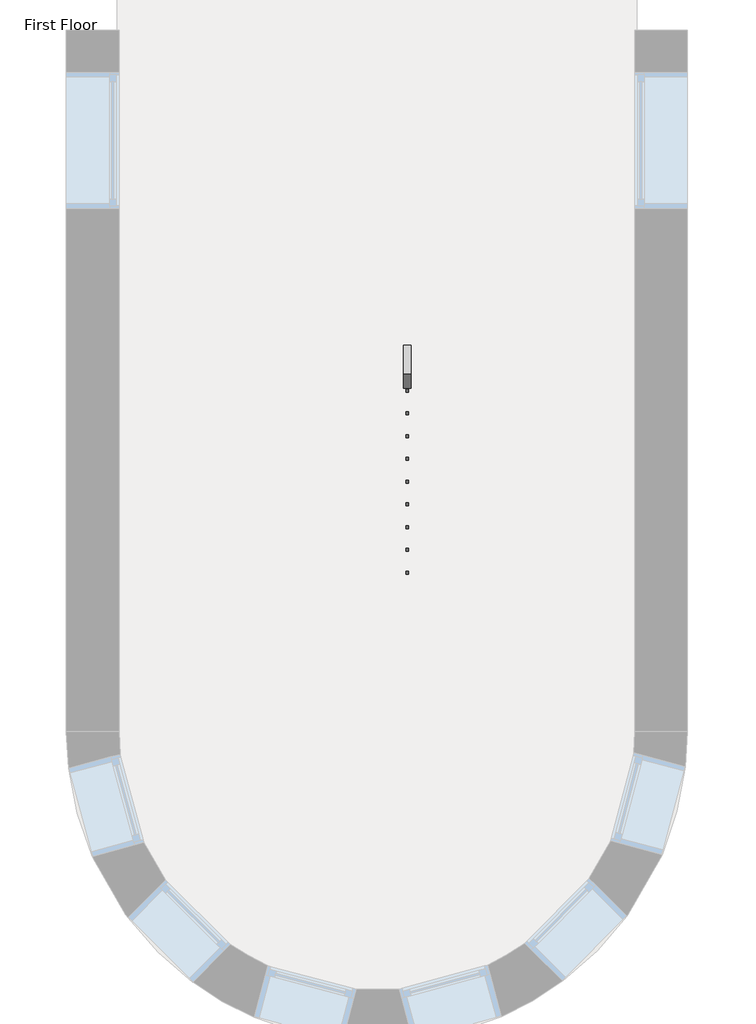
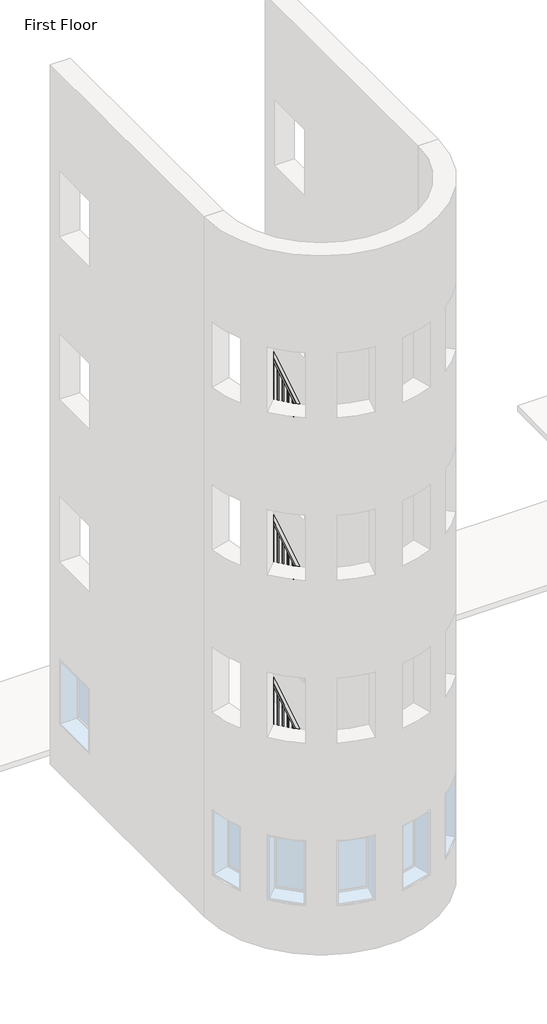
# One storey, part 18 of 21: 1 railing.
"""IFC4 building model written with IfcOpenShell, lengths in millimetres."""

from ifc_helpers import new_model, si_unit, frame, origin, place, context, project, spatial, polyline, outline, extrude, element, save

model = new_model("IFC4")

# Units and contexts
model_context = context("Model", 3, world=origin())
ifc_project = project(units=[si_unit("LENGTHUNIT", "METRE", prefix="MILLI")], contexts=[model_context])

# Site, building, storey
site = spatial("IfcSite", under=ifc_project)
building = spatial("IfcBuilding", under=site)
storey = spatial("IfcBuildingStorey", under=building, Name="First Floor", Elevation=0.0)

# Railing
placement = place(None, origin())
element("IfcRailing", 1, ObjectType="Handrail - Rectangular", at=placement, inside=storey, context=model_context, shape_type="SweptSolid", body=[
    extrude(outline(polyline([(-30327.1183133, 7179.7333333), (-30327.1183133, 7120.3318731), (-32511.5183133, 8444.2106609), (-32511.5183133, 8503.6121212), (-30327.1183133, 7179.7333333)])), frame((-14884.3714563, 0.0, 0.0), z_axis=(1.0, 0.0, 0.0), x_axis=(0.0, 1.0, 0.0)), (0.0, 0.0, 1.0), 50.8),
    extrude(outline(polyline([(-14833.5714563, -32511.5183133), (-14833.5714563, -32562.3183133), (-15225.6839563, -32562.3183133), (-15225.6839563, -32511.5183133), (-14833.5714563, -32511.5183133)])), frame((0.0, 0.0, 8483.6), z_axis=(0.0, 0.0, 1.0), x_axis=(1.0, 0.0, 0.0)), (0.0, 0.0, 1.0), 50.8),
    extrude(outline(polyline([(-32562.3183133, 8644.3318731), (-32562.3183133, 8703.7333333), (-30327.1183133, 10058.4), (-30327.1183133, 9998.9985397), (-32562.3183133, 8644.3318731)])), frame((-15276.4839563, 0.0, 0.0), z_axis=(1.0, 0.0, 0.0), x_axis=(0.0, 1.0, 0.0)), (0.0, 0.0, 1.0), 50.8),
    extrude(outline(polyline([(-30412.8433133, 9947.0439943), (-30393.7933133, 9958.5894488), (-30393.7933133, 9146.3720877), (-30412.8433133, 9134.8266332), (-30412.8433133, 9947.0439943)])), frame((-15260.6089563, 0.0, 0.0), z_axis=(1.0, 0.0, 0.0), x_axis=(0.0, 1.0, 0.0)), (0.0, 0.0, 1.0), 19.05),
    extrude(outline(polyline([(-30565.2433133, 9854.6803579), (-30546.1933133, 9866.2258125), (-30546.1933133, 9054.0084513), (-30565.2433133, 9042.4629968), (-30565.2433133, 9854.6803579)])), frame((-15260.6089563, 0.0, 0.0), z_axis=(1.0, 0.0, 0.0), x_axis=(0.0, 1.0, 0.0)), (0.0, 0.0, 1.0), 19.05),
    extrude(outline(polyline([(-30717.6433133, 9762.3167215), (-30698.5933133, 9773.8621761), (-30698.5933133, 8961.644815), (-30717.6433133, 8950.0993604), (-30717.6433133, 9762.3167215)])), frame((-15260.6089563, 0.0, 0.0), z_axis=(1.0, 0.0, 0.0), x_axis=(0.0, 1.0, 0.0)), (0.0, 0.0, 1.0), 19.05),
    extrude(outline(polyline([(-30870.0433133, 9669.9530852), (-30850.9933133, 9681.4985397), (-30850.9933133, 8869.2811786), (-30870.0433133, 8857.7357241), (-30870.0433133, 9669.9530852)])), frame((-15260.6089563, 0.0, 0.0), z_axis=(1.0, 0.0, 0.0), x_axis=(0.0, 1.0, 0.0)), (0.0, 0.0, 1.0), 19.05),
    extrude(outline(polyline([(-31022.4433133, 9577.5894488), (-31003.3933133, 9589.1349034), (-31003.3933133, 8776.9175422), (-31022.4433133, 8765.3720877), (-31022.4433133, 9577.5894488)])), frame((-15260.6089563, 0.0, 0.0), z_axis=(1.0, 0.0, 0.0), x_axis=(0.0, 1.0, 0.0)), (0.0, 0.0, 1.0), 19.05),
    extrude(outline(polyline([(-31174.8433133, 9485.2258125), (-31155.7933133, 9496.771267), (-31155.7933133, 8684.5539059), (-31174.8433133, 8673.0084513), (-31174.8433133, 9485.2258125)])), frame((-15260.6089563, 0.0, 0.0), z_axis=(1.0, 0.0, 0.0), x_axis=(0.0, 1.0, 0.0)), (0.0, 0.0, 1.0), 19.05),
    extrude(outline(polyline([(-31327.2433133, 9392.8621761), (-31308.1933133, 9404.4076306), (-31308.1933133, 8592.1902695), (-31327.2433133, 8580.644815), (-31327.2433133, 9392.8621761)])), frame((-15260.6089563, 0.0, 0.0), z_axis=(1.0, 0.0, 0.0), x_axis=(0.0, 1.0, 0.0)), (0.0, 0.0, 1.0), 19.05),
    extrude(outline(polyline([(-31479.6433133, 9300.4985397), (-31460.5933133, 9312.0439943), (-31460.5933133, 8499.8266332), (-31479.6433133, 8488.2811786), (-31479.6433133, 9300.4985397)])), frame((-15260.6089563, 0.0, 0.0), z_axis=(1.0, 0.0, 0.0), x_axis=(0.0, 1.0, 0.0)), (0.0, 0.0, 1.0), 19.05),
    extrude(outline(polyline([(-31632.0433133, 9208.1349034), (-31612.9933133, 9219.6803579), (-31612.9933133, 8407.4629968), (-31632.0433133, 8395.9175422), (-31632.0433133, 9208.1349034)])), frame((-15260.6089563, 0.0, 0.0), z_axis=(1.0, 0.0, 0.0), x_axis=(0.0, 1.0, 0.0)), (0.0, 0.0, 1.0), 19.05),
    extrude(outline(polyline([(-31784.4433133, 9115.771267), (-31765.3933133, 9127.3167215), (-31765.3933133, 8315.0993604), (-31784.4433133, 8303.5539059), (-31784.4433133, 9115.771267)])), frame((-15260.6089563, 0.0, 0.0), z_axis=(1.0, 0.0, 0.0), x_axis=(0.0, 1.0, 0.0)), (0.0, 0.0, 1.0), 19.05),
    extrude(outline(polyline([(-31936.8433133, 9023.4076306), (-31917.7933133, 9034.9530852), (-31917.7933133, 8222.7357241), (-31936.8433133, 8211.1902695), (-31936.8433133, 9023.4076306)])), frame((-15260.6089563, 0.0, 0.0), z_axis=(1.0, 0.0, 0.0), x_axis=(0.0, 1.0, 0.0)), (0.0, 0.0, 1.0), 19.05),
    extrude(outline(polyline([(-32089.2433133, 8931.0439943), (-32070.1933133, 8942.5894488), (-32070.1933133, 8130.3720877), (-32089.2433133, 8118.8266332), (-32089.2433133, 8931.0439943)])), frame((-15260.6089563, 0.0, 0.0), z_axis=(1.0, 0.0, 0.0), x_axis=(0.0, 1.0, 0.0)), (0.0, 0.0, 1.0), 19.05),
    extrude(outline(polyline([(-32241.6433133, 8838.6803579), (-32222.5933133, 8850.2258125), (-32222.5933133, 8038.0084513), (-32241.6433133, 8026.4629968), (-32241.6433133, 8838.6803579)])), frame((-15260.6089563, 0.0, 0.0), z_axis=(1.0, 0.0, 0.0), x_axis=(0.0, 1.0, 0.0)), (0.0, 0.0, 1.0), 19.05),
    extrude(outline(polyline([(-32394.0433133, 8746.3167215), (-32374.9933133, 8757.8621761), (-32374.9933133, 7945.644815), (-32394.0433133, 7934.0993604), (-32394.0433133, 8746.3167215)])), frame((-15260.6089563, 0.0, 0.0), z_axis=(1.0, 0.0, 0.0), x_axis=(0.0, 1.0, 0.0)), (0.0, 0.0, 1.0), 19.05),
    extrude(outline(polyline([(-15154.2464563, -32527.3933133), (-15154.2464563, -32546.4433133), (-15173.2964563, -32546.4433133), (-15173.2964563, -32527.3933133), (-15154.2464563, -32527.3933133)])), frame((0.0, 0.0, 7696.2), z_axis=(0.0, 0.0, 1.0), x_axis=(1.0, 0.0, 0.0)), (0.0, 0.0, 1.0), 787.4),
    extrude(outline(polyline([(-15001.8464563, -32527.3933133), (-15001.8464563, -32546.4433133), (-15020.8964563, -32546.4433133), (-15020.8964563, -32527.3933133), (-15001.8464563, -32527.3933133)])), frame((0.0, 0.0, 7696.2), z_axis=(0.0, 0.0, 1.0), x_axis=(1.0, 0.0, 0.0)), (0.0, 0.0, 1.0), 787.4),
    extrude(outline(polyline([(-32470.2433133, 8419.1955094), (-32451.1933133, 8407.6500549), (-32451.1933133, 7595.4326938), (-32470.2433133, 7606.9781483), (-32470.2433133, 8419.1955094)])), frame((-14868.4964563, 0.0, 0.0), z_axis=(1.0, 0.0, 0.0), x_axis=(0.0, 1.0, 0.0)), (0.0, 0.0, 1.0), 19.05),
    extrude(outline(polyline([(-32317.8433133, 8326.8318731), (-32298.7933133, 8315.2864185), (-32298.7933133, 7503.0690574), (-32317.8433133, 7514.6145119), (-32317.8433133, 8326.8318731)])), frame((-14868.4964563, 0.0, 0.0), z_axis=(1.0, 0.0, 0.0), x_axis=(0.0, 1.0, 0.0)), (0.0, 0.0, 1.0), 19.05),
    extrude(outline(polyline([(-32165.4433133, 8234.4682367), (-32146.3933133, 8222.9227822), (-32146.3933133, 7410.705421), (-32165.4433133, 7422.2508756), (-32165.4433133, 8234.4682367)])), frame((-14868.4964563, 0.0, 0.0), z_axis=(1.0, 0.0, 0.0), x_axis=(0.0, 1.0, 0.0)), (0.0, 0.0, 1.0), 19.05),
    extrude(outline(polyline([(-32013.0433133, 8142.1046003), (-31993.9933133, 8130.5591458), (-31993.9933133, 7318.3417847), (-32013.0433133, 7329.8872392), (-32013.0433133, 8142.1046003)])), frame((-14868.4964563, 0.0, 0.0), z_axis=(1.0, 0.0, 0.0), x_axis=(0.0, 1.0, 0.0)), (0.0, 0.0, 1.0), 19.05),
    extrude(outline(polyline([(-31860.6433133, 8049.740964), (-31841.5933133, 8038.1955094), (-31841.5933133, 7225.9781483), (-31860.6433133, 7237.5236029), (-31860.6433133, 8049.740964)])), frame((-14868.4964563, 0.0, 0.0), z_axis=(1.0, 0.0, 0.0), x_axis=(0.0, 1.0, 0.0)), (0.0, 0.0, 1.0), 19.05),
    extrude(outline(polyline([(-31708.2433133, 7957.3773276), (-31689.1933133, 7945.8318731), (-31689.1933133, 7133.6145119), (-31708.2433133, 7145.1599665), (-31708.2433133, 7957.3773276)])), frame((-14868.4964563, 0.0, 0.0), z_axis=(1.0, 0.0, 0.0), x_axis=(0.0, 1.0, 0.0)), (0.0, 0.0, 1.0), 19.05),
    extrude(outline(polyline([(-31555.8433133, 7865.0136912), (-31536.7933133, 7853.4682367), (-31536.7933133, 7041.2508756), (-31555.8433133, 7052.7963301), (-31555.8433133, 7865.0136912)])), frame((-14868.4964563, 0.0, 0.0), z_axis=(1.0, 0.0, 0.0), x_axis=(0.0, 1.0, 0.0)), (0.0, 0.0, 1.0), 19.05),
    extrude(outline(polyline([(-31403.4433133, 7772.6500549), (-31384.3933133, 7761.1046003), (-31384.3933133, 6948.8872392), (-31403.4433133, 6960.4326938), (-31403.4433133, 7772.6500549)])), frame((-14868.4964563, 0.0, 0.0), z_axis=(1.0, 0.0, 0.0), x_axis=(0.0, 1.0, 0.0)), (0.0, 0.0, 1.0), 19.05),
    extrude(outline(polyline([(-31251.0433133, 7680.2864185), (-31231.9933133, 7668.740964), (-31231.9933133, 6856.5236029), (-31251.0433133, 6868.0690574), (-31251.0433133, 7680.2864185)])), frame((-14868.4964563, 0.0, 0.0), z_axis=(1.0, 0.0, 0.0), x_axis=(0.0, 1.0, 0.0)), (0.0, 0.0, 1.0), 19.05),
    extrude(outline(polyline([(-31098.6433133, 7587.9227822), (-31079.5933133, 7576.3773276), (-31079.5933133, 6764.1599665), (-31098.6433133, 6775.705421), (-31098.6433133, 7587.9227822)])), frame((-14868.4964563, 0.0, 0.0), z_axis=(1.0, 0.0, 0.0), x_axis=(0.0, 1.0, 0.0)), (0.0, 0.0, 1.0), 19.05),
    extrude(outline(polyline([(-30946.2433133, 7495.5591458), (-30927.1933133, 7484.0136912), (-30927.1933133, 6671.7963301), (-30946.2433133, 6683.3417847), (-30946.2433133, 7495.5591458)])), frame((-14868.4964563, 0.0, 0.0), z_axis=(1.0, 0.0, 0.0), x_axis=(0.0, 1.0, 0.0)), (0.0, 0.0, 1.0), 19.05),
    extrude(outline(polyline([(-30793.8433133, 7403.1955094), (-30774.7933133, 7391.6500549), (-30774.7933133, 6579.4326938), (-30793.8433133, 6590.9781483), (-30793.8433133, 7403.1955094)])), frame((-14868.4964563, 0.0, 0.0), z_axis=(1.0, 0.0, 0.0), x_axis=(0.0, 1.0, 0.0)), (0.0, 0.0, 1.0), 19.05),
    extrude(outline(polyline([(-30641.4433133, 7310.8318731), (-30622.3933133, 7299.2864185), (-30622.3933133, 6487.0690574), (-30641.4433133, 6498.6145119), (-30641.4433133, 7310.8318731)])), frame((-14868.4964563, 0.0, 0.0), z_axis=(1.0, 0.0, 0.0), x_axis=(0.0, 1.0, 0.0)), (0.0, 0.0, 1.0), 19.05),
    extrude(outline(polyline([(-30489.0433133, 7218.4682367), (-30469.9933133, 7206.9227822), (-30469.9933133, 6394.705421), (-30489.0433133, 6406.2508756), (-30489.0433133, 7218.4682367)])), frame((-14868.4964563, 0.0, 0.0), z_axis=(1.0, 0.0, 0.0), x_axis=(0.0, 1.0, 0.0)), (0.0, 0.0, 1.0), 19.05),
    extrude(outline(polyline([(-32546.4433133, 8653.9530852), (-32527.3933133, 8665.4985397), (-32527.3933133, 7853.2811786), (-32546.4433133, 7841.7357241), (-32546.4433133, 8653.9530852)])), frame((-15260.6089563, 0.0, 0.0), z_axis=(1.0, 0.0, 0.0), x_axis=(0.0, 1.0, 0.0)), (0.0, 0.0, 1.0), 19.05),
    extrude(outline(polyline([(-14849.4464563, -32527.3933133), (-14849.4464563, -32546.4433133), (-14868.4964563, -32546.4433133), (-14868.4964563, -32527.3933133), (-14849.4464563, -32527.3933133)])), frame((0.0, 0.0, 7696.2), z_axis=(0.0, 0.0, 1.0), x_axis=(1.0, 0.0, 0.0)), (0.0, 0.0, 1.0), 787.4),
    extrude(outline(polyline([(-30346.1683133, 9987.4530852), (-30327.1183133, 9998.9985397), (-30327.1183133, 9186.7811786), (-30346.1683133, 9175.2357241), (-30346.1683133, 9987.4530852)])), frame((-15260.6089563, 0.0, 0.0), z_axis=(1.0, 0.0, 0.0), x_axis=(0.0, 1.0, 0.0)), (0.0, 0.0, 1.0), 19.05),
    extrude(outline(polyline([(-30346.1683133, 7131.8773276), (-30327.1183133, 7120.3318731), (-30327.1183133, 6308.1145119), (-30346.1683133, 6319.6599665), (-30346.1683133, 7131.8773276)])), frame((-14868.4964563, 0.0, 0.0), z_axis=(1.0, 0.0, 0.0), x_axis=(0.0, 1.0, 0.0)), (0.0, 0.0, 1.0), 19.05),
    extrude(outline(polyline([(-30327.1183133, 4131.7333333), (-30327.1183133, 4072.3318731), (-32511.5183133, 5396.210661), (-32511.5183133, 5455.6121212), (-30327.1183133, 4131.7333333)])), frame((-14884.3714563, 0.0, 0.0), z_axis=(1.0, 0.0, 0.0), x_axis=(0.0, 1.0, 0.0)), (0.0, 0.0, 1.0), 50.8),
    extrude(outline(polyline([(-14833.5714563, -32511.5183133), (-14833.5714563, -32562.3183133), (-15225.6839563, -32562.3183133), (-15225.6839563, -32511.5183133), (-14833.5714563, -32511.5183133)])), frame((0.0, 0.0, 5435.6), z_axis=(0.0, 0.0, 1.0), x_axis=(1.0, 0.0, 0.0)), (0.0, 0.0, 1.0), 50.8),
    extrude(outline(polyline([(-32562.3183133, 5596.3318731), (-32562.3183133, 5655.7333333), (-30327.1183133, 7010.4), (-30327.1183133, 6950.9985397), (-32562.3183133, 5596.3318731)])), frame((-15276.4839563, 0.0, 0.0), z_axis=(1.0, 0.0, 0.0), x_axis=(0.0, 1.0, 0.0)), (0.0, 0.0, 1.0), 50.8),
    extrude(outline(polyline([(-30412.8433133, 6899.0439943), (-30393.7933133, 6910.5894488), (-30393.7933133, 6098.3720877), (-30412.8433133, 6086.8266332), (-30412.8433133, 6899.0439943)])), frame((-15260.6089563, 0.0, 0.0), z_axis=(1.0, 0.0, 0.0), x_axis=(0.0, 1.0, 0.0)), (0.0, 0.0, 1.0), 19.05),
    extrude(outline(polyline([(-30565.2433133, 6806.6803579), (-30546.1933133, 6818.2258125), (-30546.1933133, 6006.0084513), (-30565.2433133, 5994.4629968), (-30565.2433133, 6806.6803579)])), frame((-15260.6089563, 0.0, 0.0), z_axis=(1.0, 0.0, 0.0), x_axis=(0.0, 1.0, 0.0)), (0.0, 0.0, 1.0), 19.05),
    extrude(outline(polyline([(-30717.6433133, 6714.3167216), (-30698.5933133, 6725.8621761), (-30698.5933133, 5913.644815), (-30717.6433133, 5902.0993604), (-30717.6433133, 6714.3167216)])), frame((-15260.6089563, 0.0, 0.0), z_axis=(1.0, 0.0, 0.0), x_axis=(0.0, 1.0, 0.0)), (0.0, 0.0, 1.0), 19.05),
    extrude(outline(polyline([(-30870.0433133, 6621.9530852), (-30850.9933133, 6633.4985397), (-30850.9933133, 5821.2811786), (-30870.0433133, 5809.7357241), (-30870.0433133, 6621.9530852)])), frame((-15260.6089563, 0.0, 0.0), z_axis=(1.0, 0.0, 0.0), x_axis=(0.0, 1.0, 0.0)), (0.0, 0.0, 1.0), 19.05),
    extrude(outline(polyline([(-31022.4433133, 6529.5894488), (-31003.3933133, 6541.1349034), (-31003.3933133, 5728.9175423), (-31022.4433133, 5717.3720877), (-31022.4433133, 6529.5894488)])), frame((-15260.6089563, 0.0, 0.0), z_axis=(1.0, 0.0, 0.0), x_axis=(0.0, 1.0, 0.0)), (0.0, 0.0, 1.0), 19.05),
    extrude(outline(polyline([(-31174.8433133, 6437.2258125), (-31155.7933133, 6448.771267), (-31155.7933133, 5636.5539059), (-31174.8433133, 5625.0084513), (-31174.8433133, 6437.2258125)])), frame((-15260.6089563, 0.0, 0.0), z_axis=(1.0, 0.0, 0.0), x_axis=(0.0, 1.0, 0.0)), (0.0, 0.0, 1.0), 19.05),
    extrude(outline(polyline([(-31327.2433133, 6344.8621761), (-31308.1933133, 6356.4076306), (-31308.1933133, 5544.1902695), (-31327.2433133, 5532.644815), (-31327.2433133, 6344.8621761)])), frame((-15260.6089563, 0.0, 0.0), z_axis=(1.0, 0.0, 0.0), x_axis=(0.0, 1.0, 0.0)), (0.0, 0.0, 1.0), 19.05),
    extrude(outline(polyline([(-31479.6433133, 6252.4985397), (-31460.5933133, 6264.0439943), (-31460.5933133, 5451.8266332), (-31479.6433133, 5440.2811786), (-31479.6433133, 6252.4985397)])), frame((-15260.6089563, 0.0, 0.0), z_axis=(1.0, 0.0, 0.0), x_axis=(0.0, 1.0, 0.0)), (0.0, 0.0, 1.0), 19.05),
    extrude(outline(polyline([(-31632.0433133, 6160.1349034), (-31612.9933133, 6171.6803579), (-31612.9933133, 5359.4629968), (-31632.0433133, 5347.9175423), (-31632.0433133, 6160.1349034)])), frame((-15260.6089563, 0.0, 0.0), z_axis=(1.0, 0.0, 0.0), x_axis=(0.0, 1.0, 0.0)), (0.0, 0.0, 1.0), 19.05),
    extrude(outline(polyline([(-31784.4433133, 6067.771267), (-31765.3933133, 6079.3167216), (-31765.3933133, 5267.0993604), (-31784.4433133, 5255.5539059), (-31784.4433133, 6067.771267)])), frame((-15260.6089563, 0.0, 0.0), z_axis=(1.0, 0.0, 0.0), x_axis=(0.0, 1.0, 0.0)), (0.0, 0.0, 1.0), 19.05),
    extrude(outline(polyline([(-31936.8433133, 5975.4076306), (-31917.7933133, 5986.9530852), (-31917.7933133, 5174.7357241), (-31936.8433133, 5163.1902695), (-31936.8433133, 5975.4076306)])), frame((-15260.6089563, 0.0, 0.0), z_axis=(1.0, 0.0, 0.0), x_axis=(0.0, 1.0, 0.0)), (0.0, 0.0, 1.0), 19.05),
    extrude(outline(polyline([(-32089.2433133, 5883.0439943), (-32070.1933133, 5894.5894488), (-32070.1933133, 5082.3720877), (-32089.2433133, 5070.8266332), (-32089.2433133, 5883.0439943)])), frame((-15260.6089563, 0.0, 0.0), z_axis=(1.0, 0.0, 0.0), x_axis=(0.0, 1.0, 0.0)), (0.0, 0.0, 1.0), 19.05),
    extrude(outline(polyline([(-32241.6433133, 5790.6803579), (-32222.5933133, 5802.2258125), (-32222.5933133, 4990.0084513), (-32241.6433133, 4978.4629968), (-32241.6433133, 5790.6803579)])), frame((-15260.6089563, 0.0, 0.0), z_axis=(1.0, 0.0, 0.0), x_axis=(0.0, 1.0, 0.0)), (0.0, 0.0, 1.0), 19.05),
    extrude(outline(polyline([(-32394.0433133, 5698.3167216), (-32374.9933133, 5709.8621761), (-32374.9933133, 4897.644815), (-32394.0433133, 4886.0993604), (-32394.0433133, 5698.3167216)])), frame((-15260.6089563, 0.0, 0.0), z_axis=(1.0, 0.0, 0.0), x_axis=(0.0, 1.0, 0.0)), (0.0, 0.0, 1.0), 19.05),
    extrude(outline(polyline([(-15154.2464563, -32527.3933133), (-15154.2464563, -32546.4433133), (-15173.2964563, -32546.4433133), (-15173.2964563, -32527.3933133), (-15154.2464563, -32527.3933133)])), frame((0.0, 0.0, 4648.2), z_axis=(0.0, 0.0, 1.0), x_axis=(1.0, 0.0, 0.0)), (0.0, 0.0, 1.0), 787.4),
    extrude(outline(polyline([(-15001.8464563, -32527.3933133), (-15001.8464563, -32546.4433133), (-15020.8964563, -32546.4433133), (-15020.8964563, -32527.3933133), (-15001.8464563, -32527.3933133)])), frame((0.0, 0.0, 4648.2), z_axis=(0.0, 0.0, 1.0), x_axis=(1.0, 0.0, 0.0)), (0.0, 0.0, 1.0), 787.4),
    extrude(outline(polyline([(-32470.2433133, 5371.1955094), (-32451.1933133, 5359.6500549), (-32451.1933133, 4547.4326938), (-32470.2433133, 4558.9781483), (-32470.2433133, 5371.1955094)])), frame((-14868.4964563, 0.0, 0.0), z_axis=(1.0, 0.0, 0.0), x_axis=(0.0, 1.0, 0.0)), (0.0, 0.0, 1.0), 19.05),
    extrude(outline(polyline([(-32317.8433133, 5278.8318731), (-32298.7933133, 5267.2864185), (-32298.7933133, 4455.0690574), (-32317.8433133, 4466.614512), (-32317.8433133, 5278.8318731)])), frame((-14868.4964563, 0.0, 0.0), z_axis=(1.0, 0.0, 0.0), x_axis=(0.0, 1.0, 0.0)), (0.0, 0.0, 1.0), 19.05),
    extrude(outline(polyline([(-32165.4433133, 5186.4682367), (-32146.3933133, 5174.9227822), (-32146.3933133, 4362.705421), (-32165.4433133, 4374.2508756), (-32165.4433133, 5186.4682367)])), frame((-14868.4964563, 0.0, 0.0), z_axis=(1.0, 0.0, 0.0), x_axis=(0.0, 1.0, 0.0)), (0.0, 0.0, 1.0), 19.05),
    extrude(outline(polyline([(-32013.0433133, 5094.1046003), (-31993.9933133, 5082.5591458), (-31993.9933133, 4270.3417847), (-32013.0433133, 4281.8872392), (-32013.0433133, 5094.1046003)])), frame((-14868.4964563, 0.0, 0.0), z_axis=(1.0, 0.0, 0.0), x_axis=(0.0, 1.0, 0.0)), (0.0, 0.0, 1.0), 19.05),
    extrude(outline(polyline([(-31860.6433133, 5001.740964), (-31841.5933133, 4990.1955094), (-31841.5933133, 4177.9781483), (-31860.6433133, 4189.5236029), (-31860.6433133, 5001.740964)])), frame((-14868.4964563, 0.0, 0.0), z_axis=(1.0, 0.0, 0.0), x_axis=(0.0, 1.0, 0.0)), (0.0, 0.0, 1.0), 19.05),
    extrude(outline(polyline([(-31708.2433133, 4909.3773276), (-31689.1933133, 4897.8318731), (-31689.1933133, 4085.614512), (-31708.2433133, 4097.1599665), (-31708.2433133, 4909.3773276)])), frame((-14868.4964563, 0.0, 0.0), z_axis=(1.0, 0.0, 0.0), x_axis=(0.0, 1.0, 0.0)), (0.0, 0.0, 1.0), 19.05),
    extrude(outline(polyline([(-31555.8433133, 4817.0136913), (-31536.7933133, 4805.4682367), (-31536.7933133, 3993.2508756), (-31555.8433133, 4004.7963301), (-31555.8433133, 4817.0136913)])), frame((-14868.4964563, 0.0, 0.0), z_axis=(1.0, 0.0, 0.0), x_axis=(0.0, 1.0, 0.0)), (0.0, 0.0, 1.0), 19.05),
    extrude(outline(polyline([(-31403.4433133, 4724.6500549), (-31384.3933133, 4713.1046003), (-31384.3933133, 3900.8872392), (-31403.4433133, 3912.4326938), (-31403.4433133, 4724.6500549)])), frame((-14868.4964563, 0.0, 0.0), z_axis=(1.0, 0.0, 0.0), x_axis=(0.0, 1.0, 0.0)), (0.0, 0.0, 1.0), 19.05),
    extrude(outline(polyline([(-31251.0433133, 4632.2864185), (-31231.9933133, 4620.740964), (-31231.9933133, 3808.5236029), (-31251.0433133, 3820.0690574), (-31251.0433133, 4632.2864185)])), frame((-14868.4964563, 0.0, 0.0), z_axis=(1.0, 0.0, 0.0), x_axis=(0.0, 1.0, 0.0)), (0.0, 0.0, 1.0), 19.05),
    extrude(outline(polyline([(-31098.6433133, 4539.9227822), (-31079.5933133, 4528.3773276), (-31079.5933133, 3716.1599665), (-31098.6433133, 3727.705421), (-31098.6433133, 4539.9227822)])), frame((-14868.4964563, 0.0, 0.0), z_axis=(1.0, 0.0, 0.0), x_axis=(0.0, 1.0, 0.0)), (0.0, 0.0, 1.0), 19.05),
    extrude(outline(polyline([(-30946.2433133, 4447.5591458), (-30927.1933133, 4436.0136913), (-30927.1933133, 3623.7963301), (-30946.2433133, 3635.3417847), (-30946.2433133, 4447.5591458)])), frame((-14868.4964563, 0.0, 0.0), z_axis=(1.0, 0.0, 0.0), x_axis=(0.0, 1.0, 0.0)), (0.0, 0.0, 1.0), 19.05),
    extrude(outline(polyline([(-30793.8433133, 4355.1955094), (-30774.7933133, 4343.6500549), (-30774.7933133, 3531.4326938), (-30793.8433133, 3542.9781483), (-30793.8433133, 4355.1955094)])), frame((-14868.4964563, 0.0, 0.0), z_axis=(1.0, 0.0, 0.0), x_axis=(0.0, 1.0, 0.0)), (0.0, 0.0, 1.0), 19.05),
    extrude(outline(polyline([(-30641.4433133, 4262.8318731), (-30622.3933133, 4251.2864185), (-30622.3933133, 3439.0690574), (-30641.4433133, 3450.614512), (-30641.4433133, 4262.8318731)])), frame((-14868.4964563, 0.0, 0.0), z_axis=(1.0, 0.0, 0.0), x_axis=(0.0, 1.0, 0.0)), (0.0, 0.0, 1.0), 19.05),
    extrude(outline(polyline([(-30489.0433133, 4170.4682367), (-30469.9933133, 4158.9227822), (-30469.9933133, 3346.705421), (-30489.0433133, 3358.2508756), (-30489.0433133, 4170.4682367)])), frame((-14868.4964563, 0.0, 0.0), z_axis=(1.0, 0.0, 0.0), x_axis=(0.0, 1.0, 0.0)), (0.0, 0.0, 1.0), 19.05),
    extrude(outline(polyline([(-32546.4433133, 5605.9530852), (-32527.3933133, 5617.4985397), (-32527.3933133, 4805.2811786), (-32546.4433133, 4793.7357241), (-32546.4433133, 5605.9530852)])), frame((-15260.6089563, 0.0, 0.0), z_axis=(1.0, 0.0, 0.0), x_axis=(0.0, 1.0, 0.0)), (0.0, 0.0, 1.0), 19.05),
    extrude(outline(polyline([(-14849.4464563, -32527.3933133), (-14849.4464563, -32546.4433133), (-14868.4964563, -32546.4433133), (-14868.4964563, -32527.3933133), (-14849.4464563, -32527.3933133)])), frame((0.0, 0.0, 4648.2), z_axis=(0.0, 0.0, 1.0), x_axis=(1.0, 0.0, 0.0)), (0.0, 0.0, 1.0), 787.4),
    extrude(outline(polyline([(-30346.1683133, 6939.4530852), (-30327.1183133, 6950.9985397), (-30327.1183133, 6138.7811786), (-30346.1683133, 6127.2357241), (-30346.1683133, 6939.4530852)])), frame((-15260.6089563, 0.0, 0.0), z_axis=(1.0, 0.0, 0.0), x_axis=(0.0, 1.0, 0.0)), (0.0, 0.0, 1.0), 19.05),
    extrude(outline(polyline([(-30346.1683133, 4083.8773276), (-30327.1183133, 4072.3318731), (-30327.1183133, 3260.114512), (-30346.1683133, 3271.6599665), (-30346.1683133, 4083.8773276)])), frame((-14868.4964563, 0.0, 0.0), z_axis=(1.0, 0.0, 0.0), x_axis=(0.0, 1.0, 0.0)), (0.0, 0.0, 1.0), 19.05),
    extrude(outline(polyline([(-30327.1183133, 1083.7333333), (-30327.1183133, 1024.3318731), (-32511.5183133, 2348.210661), (-32511.5183133, 2407.6121212), (-30327.1183133, 1083.7333333)])), frame((-14884.3714563, 0.0, 0.0), z_axis=(1.0, 0.0, 0.0), x_axis=(0.0, 1.0, 0.0)), (0.0, 0.0, 1.0), 50.8),
    extrude(outline(polyline([(-14833.5714563, -32511.5183133), (-14833.5714563, -32562.3183133), (-15225.6839563, -32562.3183133), (-15225.6839563, -32511.5183133), (-14833.5714563, -32511.5183133)])), frame((0.0, 0.0, 2387.6), z_axis=(0.0, 0.0, 1.0), x_axis=(1.0, 0.0, 0.0)), (0.0, 0.0, 1.0), 50.8),
    extrude(outline(polyline([(-32562.3183133, 2548.3318731), (-32562.3183133, 2607.7333333), (-30327.1183133, 3962.4), (-30327.1183133, 3902.9985397), (-32562.3183133, 2548.3318731)])), frame((-15276.4839563, 0.0, 0.0), z_axis=(1.0, 0.0, 0.0), x_axis=(0.0, 1.0, 0.0)), (0.0, 0.0, 1.0), 50.8),
    extrude(outline(polyline([(-30412.8433133, 3851.0439943), (-30393.7933133, 3862.5894488), (-30393.7933133, 3050.3720877), (-30412.8433133, 3038.8266332), (-30412.8433133, 3851.0439943)])), frame((-15260.6089563, 0.0, 0.0), z_axis=(1.0, 0.0, 0.0), x_axis=(0.0, 1.0, 0.0)), (0.0, 0.0, 1.0), 19.05),
    extrude(outline(polyline([(-30565.2433133, 3758.6803579), (-30546.1933133, 3770.2258125), (-30546.1933133, 2958.0084514), (-30565.2433133, 2946.4629968), (-30565.2433133, 3758.6803579)])), frame((-15260.6089563, 0.0, 0.0), z_axis=(1.0, 0.0, 0.0), x_axis=(0.0, 1.0, 0.0)), (0.0, 0.0, 1.0), 19.05),
    extrude(outline(polyline([(-30717.6433133, 3666.3167216), (-30698.5933133, 3677.8621761), (-30698.5933133, 2865.644815), (-30717.6433133, 2854.0993604), (-30717.6433133, 3666.3167216)])), frame((-15260.6089563, 0.0, 0.0), z_axis=(1.0, 0.0, 0.0), x_axis=(0.0, 1.0, 0.0)), (0.0, 0.0, 1.0), 19.05),
    extrude(outline(polyline([(-30870.0433133, 3573.9530852), (-30850.9933133, 3585.4985397), (-30850.9933133, 2773.2811786), (-30870.0433133, 2761.7357241), (-30870.0433133, 3573.9530852)])), frame((-15260.6089563, 0.0, 0.0), z_axis=(1.0, 0.0, 0.0), x_axis=(0.0, 1.0, 0.0)), (0.0, 0.0, 1.0), 19.05),
    extrude(outline(polyline([(-31022.4433133, 3481.5894488), (-31003.3933133, 3493.1349034), (-31003.3933133, 2680.9175423), (-31022.4433133, 2669.3720877), (-31022.4433133, 3481.5894488)])), frame((-15260.6089563, 0.0, 0.0), z_axis=(1.0, 0.0, 0.0), x_axis=(0.0, 1.0, 0.0)), (0.0, 0.0, 1.0), 19.05),
    extrude(outline(polyline([(-31174.8433133, 3389.2258125), (-31155.7933133, 3400.771267), (-31155.7933133, 2588.5539059), (-31174.8433133, 2577.0084514), (-31174.8433133, 3389.2258125)])), frame((-15260.6089563, 0.0, 0.0), z_axis=(1.0, 0.0, 0.0), x_axis=(0.0, 1.0, 0.0)), (0.0, 0.0, 1.0), 19.05),
    extrude(outline(polyline([(-31327.2433133, 3296.8621761), (-31308.1933133, 3308.4076307), (-31308.1933133, 2496.1902695), (-31327.2433133, 2484.644815), (-31327.2433133, 3296.8621761)])), frame((-15260.6089563, 0.0, 0.0), z_axis=(1.0, 0.0, 0.0), x_axis=(0.0, 1.0, 0.0)), (0.0, 0.0, 1.0), 19.05),
    extrude(outline(polyline([(-31479.6433133, 3204.4985397), (-31460.5933133, 3216.0439943), (-31460.5933133, 2403.8266332), (-31479.6433133, 2392.2811786), (-31479.6433133, 3204.4985397)])), frame((-15260.6089563, 0.0, 0.0), z_axis=(1.0, 0.0, 0.0), x_axis=(0.0, 1.0, 0.0)), (0.0, 0.0, 1.0), 19.05),
    extrude(outline(polyline([(-31632.0433133, 3112.1349034), (-31612.9933133, 3123.6803579), (-31612.9933133, 2311.4629968), (-31632.0433133, 2299.9175423), (-31632.0433133, 3112.1349034)])), frame((-15260.6089563, 0.0, 0.0), z_axis=(1.0, 0.0, 0.0), x_axis=(0.0, 1.0, 0.0)), (0.0, 0.0, 1.0), 19.05),
    extrude(outline(polyline([(-31784.4433133, 3019.771267), (-31765.3933133, 3031.3167216), (-31765.3933133, 2219.0993604), (-31784.4433133, 2207.5539059), (-31784.4433133, 3019.771267)])), frame((-15260.6089563, 0.0, 0.0), z_axis=(1.0, 0.0, 0.0), x_axis=(0.0, 1.0, 0.0)), (0.0, 0.0, 1.0), 19.05),
    extrude(outline(polyline([(-31936.8433133, 2927.4076307), (-31917.7933133, 2938.9530852), (-31917.7933133, 2126.7357241), (-31936.8433133, 2115.1902695), (-31936.8433133, 2927.4076307)])), frame((-15260.6089563, 0.0, 0.0), z_axis=(1.0, 0.0, 0.0), x_axis=(0.0, 1.0, 0.0)), (0.0, 0.0, 1.0), 19.05),
    extrude(outline(polyline([(-32089.2433133, 2835.0439943), (-32070.1933133, 2846.5894488), (-32070.1933133, 2034.3720877), (-32089.2433133, 2022.8266332), (-32089.2433133, 2835.0439943)])), frame((-15260.6089563, 0.0, 0.0), z_axis=(1.0, 0.0, 0.0), x_axis=(0.0, 1.0, 0.0)), (0.0, 0.0, 1.0), 19.05),
    extrude(outline(polyline([(-32241.6433133, 2742.6803579), (-32222.5933133, 2754.2258125), (-32222.5933133, 1942.0084514), (-32241.6433133, 1930.4629968), (-32241.6433133, 2742.6803579)])), frame((-15260.6089563, 0.0, 0.0), z_axis=(1.0, 0.0, 0.0), x_axis=(0.0, 1.0, 0.0)), (0.0, 0.0, 1.0), 19.05),
    extrude(outline(polyline([(-32394.0433133, 2650.3167216), (-32374.9933133, 2661.8621761), (-32374.9933133, 1849.644815), (-32394.0433133, 1838.0993604), (-32394.0433133, 2650.3167216)])), frame((-15260.6089563, 0.0, 0.0), z_axis=(1.0, 0.0, 0.0), x_axis=(0.0, 1.0, 0.0)), (0.0, 0.0, 1.0), 19.05),
    extrude(outline(polyline([(-15154.2464563, -32527.3933133), (-15154.2464563, -32546.4433133), (-15173.2964563, -32546.4433133), (-15173.2964563, -32527.3933133), (-15154.2464563, -32527.3933133)])), frame((0.0, 0.0, 1600.2), z_axis=(0.0, 0.0, 1.0), x_axis=(1.0, 0.0, 0.0)), (0.0, 0.0, 1.0), 787.4),
    extrude(outline(polyline([(-15001.8464563, -32527.3933133), (-15001.8464563, -32546.4433133), (-15020.8964563, -32546.4433133), (-15020.8964563, -32527.3933133), (-15001.8464563, -32527.3933133)])), frame((0.0, 0.0, 1600.2), z_axis=(0.0, 0.0, 1.0), x_axis=(1.0, 0.0, 0.0)), (0.0, 0.0, 1.0), 787.4),
    extrude(outline(polyline([(-32470.2433133, 2323.1955094), (-32451.1933133, 2311.6500549), (-32451.1933133, 1499.4326938), (-32470.2433133, 1510.9781483), (-32470.2433133, 2323.1955094)])), frame((-14868.4964563, 0.0, 0.0), z_axis=(1.0, 0.0, 0.0), x_axis=(0.0, 1.0, 0.0)), (0.0, 0.0, 1.0), 19.05),
    extrude(outline(polyline([(-32317.8433133, 2230.8318731), (-32298.7933133, 2219.2864185), (-32298.7933133, 1407.0690574), (-32317.8433133, 1418.614512), (-32317.8433133, 2230.8318731)])), frame((-14868.4964563, 0.0, 0.0), z_axis=(1.0, 0.0, 0.0), x_axis=(0.0, 1.0, 0.0)), (0.0, 0.0, 1.0), 19.05),
    extrude(outline(polyline([(-32165.4433133, 2138.4682367), (-32146.3933133, 2126.9227822), (-32146.3933133, 1314.7054211), (-32165.4433133, 1326.2508756), (-32165.4433133, 2138.4682367)])), frame((-14868.4964563, 0.0, 0.0), z_axis=(1.0, 0.0, 0.0), x_axis=(0.0, 1.0, 0.0)), (0.0, 0.0, 1.0), 19.05),
    extrude(outline(polyline([(-32013.0433133, 2046.1046004), (-31993.9933133, 2034.5591458), (-31993.9933133, 1222.3417847), (-32013.0433133, 1233.8872392), (-32013.0433133, 2046.1046004)])), frame((-14868.4964563, 0.0, 0.0), z_axis=(1.0, 0.0, 0.0), x_axis=(0.0, 1.0, 0.0)), (0.0, 0.0, 1.0), 19.05),
    extrude(outline(polyline([(-31860.6433133, 1953.740964), (-31841.5933133, 1942.1955094), (-31841.5933133, 1129.9781483), (-31860.6433133, 1141.5236029), (-31860.6433133, 1953.740964)])), frame((-14868.4964563, 0.0, 0.0), z_axis=(1.0, 0.0, 0.0), x_axis=(0.0, 1.0, 0.0)), (0.0, 0.0, 1.0), 19.05),
    extrude(outline(polyline([(-31708.2433133, 1861.3773276), (-31689.1933133, 1849.8318731), (-31689.1933133, 1037.614512), (-31708.2433133, 1049.1599665), (-31708.2433133, 1861.3773276)])), frame((-14868.4964563, 0.0, 0.0), z_axis=(1.0, 0.0, 0.0), x_axis=(0.0, 1.0, 0.0)), (0.0, 0.0, 1.0), 19.05),
    extrude(outline(polyline([(-31555.8433133, 1769.0136913), (-31536.7933133, 1757.4682367), (-31536.7933133, 945.2508756), (-31555.8433133, 956.7963301), (-31555.8433133, 1769.0136913)])), frame((-14868.4964563, 0.0, 0.0), z_axis=(1.0, 0.0, 0.0), x_axis=(0.0, 1.0, 0.0)), (0.0, 0.0, 1.0), 19.05),
    extrude(outline(polyline([(-31403.4433133, 1676.6500549), (-31384.3933133, 1665.1046004), (-31384.3933133, 852.8872392), (-31403.4433133, 864.4326938), (-31403.4433133, 1676.6500549)])), frame((-14868.4964563, 0.0, 0.0), z_axis=(1.0, 0.0, 0.0), x_axis=(0.0, 1.0, 0.0)), (0.0, 0.0, 1.0), 19.05),
    extrude(outline(polyline([(-31251.0433133, 1584.2864185), (-31231.9933133, 1572.740964), (-31231.9933133, 760.5236029), (-31251.0433133, 772.0690574), (-31251.0433133, 1584.2864185)])), frame((-14868.4964563, 0.0, 0.0), z_axis=(1.0, 0.0, 0.0), x_axis=(0.0, 1.0, 0.0)), (0.0, 0.0, 1.0), 19.05),
    extrude(outline(polyline([(-31098.6433133, 1491.9227822), (-31079.5933133, 1480.3773276), (-31079.5933133, 668.1599665), (-31098.6433133, 679.7054211), (-31098.6433133, 1491.9227822)])), frame((-14868.4964563, 0.0, 0.0), z_axis=(1.0, 0.0, 0.0), x_axis=(0.0, 1.0, 0.0)), (0.0, 0.0, 1.0), 19.05),
    extrude(outline(polyline([(-30946.2433133, 1399.5591458), (-30927.1933133, 1388.0136913), (-30927.1933133, 575.7963301), (-30946.2433133, 587.3417847), (-30946.2433133, 1399.5591458)])), frame((-14868.4964563, 0.0, 0.0), z_axis=(1.0, 0.0, 0.0), x_axis=(0.0, 1.0, 0.0)), (0.0, 0.0, 1.0), 19.05),
    extrude(outline(polyline([(-30793.8433133, 1307.1955094), (-30774.7933133, 1295.6500549), (-30774.7933133, 483.4326938), (-30793.8433133, 494.9781483), (-30793.8433133, 1307.1955094)])), frame((-14868.4964563, 0.0, 0.0), z_axis=(1.0, 0.0, 0.0), x_axis=(0.0, 1.0, 0.0)), (0.0, 0.0, 1.0), 19.05),
    extrude(outline(polyline([(-30641.4433133, 1214.8318731), (-30622.3933133, 1203.2864185), (-30622.3933133, 391.0690574), (-30641.4433133, 402.614512), (-30641.4433133, 1214.8318731)])), frame((-14868.4964563, 0.0, 0.0), z_axis=(1.0, 0.0, 0.0), x_axis=(0.0, 1.0, 0.0)), (0.0, 0.0, 1.0), 19.05),
    extrude(outline(polyline([(-30489.0433133, 1122.4682367), (-30469.9933133, 1110.9227822), (-30469.9933133, 298.7054211), (-30489.0433133, 310.2508756), (-30489.0433133, 1122.4682367)])), frame((-14868.4964563, 0.0, 0.0), z_axis=(1.0, 0.0, 0.0), x_axis=(0.0, 1.0, 0.0)), (0.0, 0.0, 1.0), 19.05),
    extrude(outline(polyline([(-32546.4433133, 2557.9530852), (-32527.3933133, 2569.4985397), (-32527.3933133, 1757.2811786), (-32546.4433133, 1745.7357241), (-32546.4433133, 2557.9530852)])), frame((-15260.6089563, 0.0, 0.0), z_axis=(1.0, 0.0, 0.0), x_axis=(0.0, 1.0, 0.0)), (0.0, 0.0, 1.0), 19.05),
    extrude(outline(polyline([(-14849.4464563, -32527.3933133), (-14849.4464563, -32546.4433133), (-14868.4964563, -32546.4433133), (-14868.4964563, -32527.3933133), (-14849.4464563, -32527.3933133)])), frame((0.0, 0.0, 1600.2), z_axis=(0.0, 0.0, 1.0), x_axis=(1.0, 0.0, 0.0)), (0.0, 0.0, 1.0), 787.4),
    extrude(outline(polyline([(-30346.1683133, 3891.4530852), (-30327.1183133, 3902.9985397), (-30327.1183133, 3090.7811786), (-30346.1683133, 3079.2357241), (-30346.1683133, 3891.4530852)])), frame((-15260.6089563, 0.0, 0.0), z_axis=(1.0, 0.0, 0.0), x_axis=(0.0, 1.0, 0.0)), (0.0, 0.0, 1.0), 19.05),
    extrude(outline(polyline([(-30346.1683133, 1035.8773276), (-30327.1183133, 1024.3318731), (-30327.1183133, 212.114512), (-30346.1683133, 223.6599665), (-30346.1683133, 1035.8773276)])), frame((-14868.4964563, 0.0, 0.0), z_axis=(1.0, 0.0, 0.0), x_axis=(0.0, 1.0, 0.0)), (0.0, 0.0, 1.0), 19.05),
])

save(model, "model.ifc")
